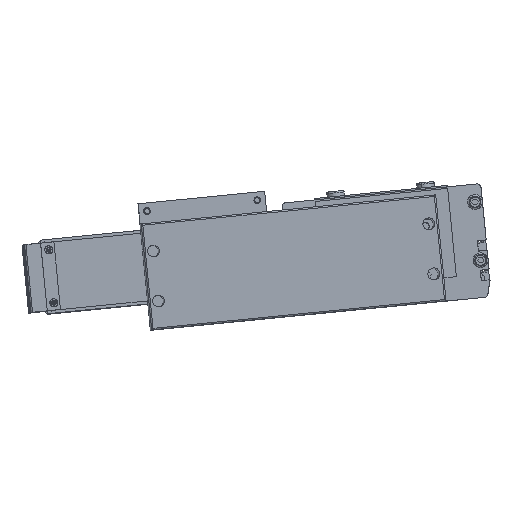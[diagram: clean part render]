
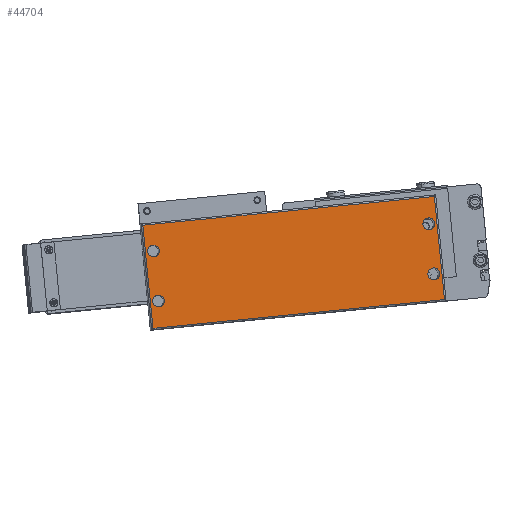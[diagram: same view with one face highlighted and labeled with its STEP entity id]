
A CAD part, top view. The second image highlights one B-rep face of the part: STEP entity #44704.
In plain terms, the highlighted planar face has unit normal (0.017, 0.003, 1) as drawn and (0, 0, 1) by its records, which use the part's own axes.
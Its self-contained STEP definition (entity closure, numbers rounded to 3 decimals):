
#3504 = CARTESIAN_POINT ( 'NONE',  ( 25.25, 53., 44. ) ) ;
#4187 = CARTESIAN_POINT ( 'NONE',  ( -153.75, 19., 44. ) ) ;
#11866 = DIRECTION ( 'NONE',  ( 0., 0., 1. ) ) ;
#11869 = CIRCLE ( 'NONE', #11901, 4. ) ;
#11883 = CARTESIAN_POINT ( 'NONE',  ( 29.25, 53., 44. ) ) ;
#11901 = AXIS2_PLACEMENT_3D ( 'NONE', #11883, #11866, #12032 ) ;
#12032 = DIRECTION ( 'NONE',  ( 1., 0., 0. ) ) ;
#13878 = AXIS2_PLACEMENT_3D ( 'NONE', #13974, #13963, #13961 ) ;
#13961 = DIRECTION ( 'NONE',  ( 1., 0., 0. ) ) ;
#13963 = DIRECTION ( 'NONE',  ( 0., 0., 1. ) ) ;
#13974 = CARTESIAN_POINT ( 'NONE',  ( -157.75, 19., 44. ) ) ;
#13988 = CIRCLE ( 'NONE', #13878, 4. ) ;
#14121 = CARTESIAN_POINT ( 'NONE',  ( -163.25, 0., 44. ) ) ;
#14124 = LINE ( 'NONE', #14121, #14298 ) ;
#14167 = PLANE ( 'NONE',  #14249 ) ;
#14219 = FACE_BOUND ( 'NONE', #44719, .T. ) ;
#14222 = FACE_BOUND ( 'NONE', #44709, .T. ) ;
#14228 = CARTESIAN_POINT ( 'NONE',  ( -157.75, 53., 44. ) ) ;
#14231 = CIRCLE ( 'NONE', #14406, 4. ) ;
#14249 = AXIS2_PLACEMENT_3D ( 'NONE', #14381, #14379, #14376 ) ;
#14250 = FACE_OUTER_BOUND ( 'NONE', #44660, .T. ) ;
#14253 = FACE_BOUND ( 'NONE', #44788, .T. ) ;
#14280 = CARTESIAN_POINT ( 'NONE',  ( 34.75, 1., 44. ) ) ;
#14296 = DIRECTION ( 'NONE',  ( 0., -1., 0. ) ) ;
#14298 = VECTOR ( 'NONE', #14296, 1000. ) ;
#14376 = DIRECTION ( 'NONE',  ( 1., 0., 0. ) ) ;
#14379 = DIRECTION ( 'NONE',  ( 0., 0., 1. ) ) ;
#14381 = CARTESIAN_POINT ( 'NONE',  ( -164.25, 0., 44. ) ) ;
#14398 = FACE_BOUND ( 'NONE', #43648, .T. ) ;
#14402 = DIRECTION ( 'NONE',  ( 1., 0., 0. ) ) ;
#14405 = DIRECTION ( 'NONE',  ( 0., 0., 1. ) ) ;
#14406 = AXIS2_PLACEMENT_3D ( 'NONE', #14228, #14405, #14402 ) ;
#14421 = DIRECTION ( 'NONE',  ( 1., 0., 0. ) ) ;
#14424 = DIRECTION ( 'NONE',  ( 0., 0., 1. ) ) ;
#14426 = CARTESIAN_POINT ( 'NONE',  ( -157.75, 19., 44. ) ) ;
#14457 = AXIS2_PLACEMENT_3D ( 'NONE', #14426, #14424, #14421 ) ;
#14490 = CIRCLE ( 'NONE', #14457, 4. ) ;
#14517 = CARTESIAN_POINT ( 'NONE',  ( 29.25, 19., 44. ) ) ;
#14527 = AXIS2_PLACEMENT_3D ( 'NONE', #14517, #14537, #14633 ) ;
#14537 = DIRECTION ( 'NONE',  ( 0., 0., 1. ) ) ;
#14542 = DIRECTION ( 'NONE',  ( 1., 0., 0. ) ) ;
#14546 = DIRECTION ( 'NONE',  ( 0., 0., 1. ) ) ;
#14553 = CARTESIAN_POINT ( 'NONE',  ( -163.25, 71., 44. ) ) ;
#14555 = CIRCLE ( 'NONE', #14583, 4. ) ;
#14582 = CARTESIAN_POINT ( 'NONE',  ( 29.25, 53., 44. ) ) ;
#14583 = AXIS2_PLACEMENT_3D ( 'NONE', #14582, #14546, #14542 ) ;
#14587 = CIRCLE ( 'NONE', #14527, 4. ) ;
#14633 = DIRECTION ( 'NONE',  ( 1., 0., 0. ) ) ;
#14712 = DIRECTION ( 'NONE',  ( 1., 0., 0. ) ) ;
#14713 = VECTOR ( 'NONE', #14712, 1000. ) ;
#14725 = CARTESIAN_POINT ( 'NONE',  ( 35.75, 1., 44. ) ) ;
#14726 = LINE ( 'NONE', #14725, #14713 ) ;
#14787 = DIRECTION ( 'NONE',  ( 0., 1., 0. ) ) ;
#14788 = VECTOR ( 'NONE', #14787, 1000. ) ;
#14789 = CARTESIAN_POINT ( 'NONE',  ( 34.75, 72., 44. ) ) ;
#14797 = LINE ( 'NONE', #14789, #14788 ) ;
#14802 = DIRECTION ( 'NONE',  ( -1., 0., 0. ) ) ;
#14805 = VECTOR ( 'NONE', #14802, 1000. ) ;
#14852 = CARTESIAN_POINT ( 'NONE',  ( -164.25, 71., 44. ) ) ;
#14855 = LINE ( 'NONE', #14852, #14805 ) ;
#14911 = CARTESIAN_POINT ( 'NONE',  ( 34.75, 71., 44. ) ) ;
#16159 = CARTESIAN_POINT ( 'NONE',  ( -163.25, 1., 44. ) ) ;
#16422 = CARTESIAN_POINT ( 'NONE',  ( 25.25, 19., 44. ) ) ;
#17450 = DIRECTION ( 'NONE',  ( 1., 0., 0. ) ) ;
#17453 = DIRECTION ( 'NONE',  ( 0., 0., 1. ) ) ;
#17469 = CARTESIAN_POINT ( 'NONE',  ( 29.25, 19., 44. ) ) ;
#17470 = AXIS2_PLACEMENT_3D ( 'NONE', #17469, #17453, #17450 ) ;
#17508 = CIRCLE ( 'NONE', #17470, 4. ) ;
#18397 = CARTESIAN_POINT ( 'NONE',  ( 33.25, 19., 44. ) ) ;
#18441 = CARTESIAN_POINT ( 'NONE',  ( -161.75, 19., 44. ) ) ;
#32963 = VERTEX_POINT ( 'NONE', #39769 ) ;
#32979 = EDGE_CURVE ( 'NONE', #32999, #32963, #39747, .T. ) ;
#32999 = VERTEX_POINT ( 'NONE', #39817 ) ;
#33085 = VERTEX_POINT ( 'NONE', #39992 ) ;
#33386 = VERTEX_POINT ( 'NONE', #3504 ) ;
#33452 = VERTEX_POINT ( 'NONE', #4187 ) ;
#34415 = EDGE_CURVE ( 'NONE', #33386, #33085, #11869, .T. ) ;
#34772 = EDGE_CURVE ( 'NONE', #35820, #33452, #13988, .T. ) ;
#35245 = VERTEX_POINT ( 'NONE', #16422 ) ;
#35788 = VERTEX_POINT ( 'NONE', #18397 ) ;
#35820 = VERTEX_POINT ( 'NONE', #18441 ) ;
#35927 = EDGE_CURVE ( 'NONE', #35245, #35788, #17508, .T. ) ;
#39747 = CIRCLE ( 'NONE', #39796, 4. ) ;
#39769 = CARTESIAN_POINT ( 'NONE',  ( -153.75, 53., 44. ) ) ;
#39796 = AXIS2_PLACEMENT_3D ( 'NONE', #39803, #39846, #39845 ) ;
#39803 = CARTESIAN_POINT ( 'NONE',  ( -157.75, 53., 44. ) ) ;
#39817 = CARTESIAN_POINT ( 'NONE',  ( -161.75, 53., 44. ) ) ;
#39845 = DIRECTION ( 'NONE',  ( 1., 0., 0. ) ) ;
#39846 = DIRECTION ( 'NONE',  ( 0., 0., 1. ) ) ;
#39992 = CARTESIAN_POINT ( 'NONE',  ( 33.25, 53., 44. ) ) ;
#43637 = ORIENTED_EDGE ( 'NONE', *, *, #34772, .F. ) ;
#43648 = EDGE_LOOP ( 'NONE', ( #43906, #44679 ) ) ;
#43906 = ORIENTED_EDGE ( 'NONE', *, *, #44755, .F. ) ;
#44660 = EDGE_LOOP ( 'NONE', ( #44749, #44735, #44770, #44779 ) ) ;
#44675 = EDGE_CURVE ( 'NONE', #44760, #45081, #14124, .T. ) ;
#44679 = ORIENTED_EDGE ( 'NONE', *, *, #35927, .F. ) ;
#44694 = VERTEX_POINT ( 'NONE', #14280 ) ;
#44699 = EDGE_CURVE ( 'NONE', #32963, #32999, #14231, .T. ) ;
#44704 = ADVANCED_FACE ( 'NONE', ( #14219, #14222, #14398, #14253, #14250 ), #14167, .T. ) ;
#44707 = ORIENTED_EDGE ( 'NONE', *, *, #32979, .F. ) ;
#44708 = ORIENTED_EDGE ( 'NONE', *, *, #44699, .F. ) ;
#44709 = EDGE_LOOP ( 'NONE', ( #44723, #43637 ) ) ;
#44719 = EDGE_LOOP ( 'NONE', ( #44708, #44707 ) ) ;
#44723 = ORIENTED_EDGE ( 'NONE', *, *, #44728, .F. ) ;
#44728 = EDGE_CURVE ( 'NONE', #33452, #35820, #14490, .T. ) ;
#44735 = ORIENTED_EDGE ( 'NONE', *, *, #44795, .T. ) ;
#44749 = ORIENTED_EDGE ( 'NONE', *, *, #44775, .T. ) ;
#44751 = EDGE_CURVE ( 'NONE', #33085, #33386, #14555, .T. ) ;
#44755 = EDGE_CURVE ( 'NONE', #35788, #35245, #14587, .T. ) ;
#44760 = VERTEX_POINT ( 'NONE', #14553 ) ;
#44766 = ORIENTED_EDGE ( 'NONE', *, *, #44751, .F. ) ;
#44770 = ORIENTED_EDGE ( 'NONE', *, *, #44792, .T. ) ;
#44775 = EDGE_CURVE ( 'NONE', #45081, #44694, #14726, .T. ) ;
#44779 = ORIENTED_EDGE ( 'NONE', *, *, #44675, .T. ) ;
#44786 = ORIENTED_EDGE ( 'NONE', *, *, #34415, .F. ) ;
#44788 = EDGE_LOOP ( 'NONE', ( #44766, #44786 ) ) ;
#44792 = EDGE_CURVE ( 'NONE', #44815, #44760, #14855, .T. ) ;
#44795 = EDGE_CURVE ( 'NONE', #44694, #44815, #14797, .T. ) ;
#44815 = VERTEX_POINT ( 'NONE', #14911 ) ;
#45081 = VERTEX_POINT ( 'NONE', #16159 ) ;
